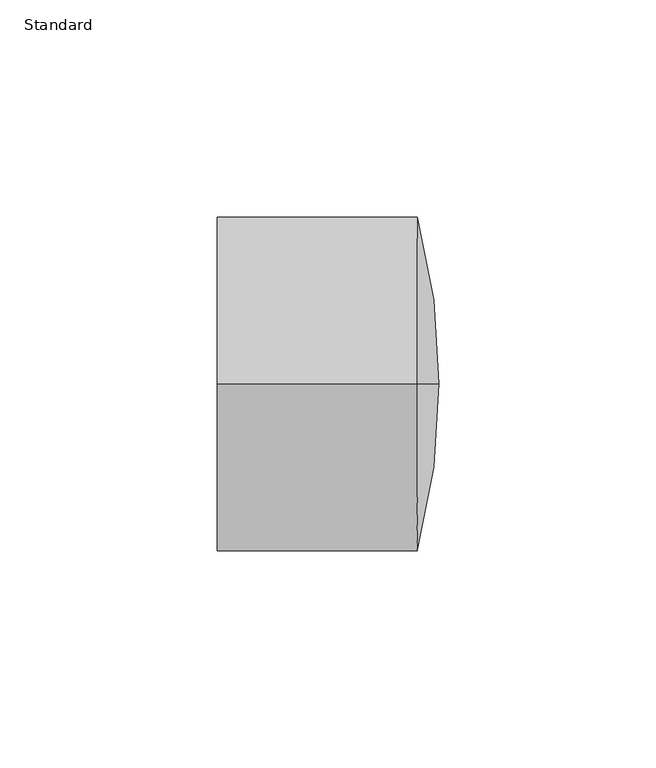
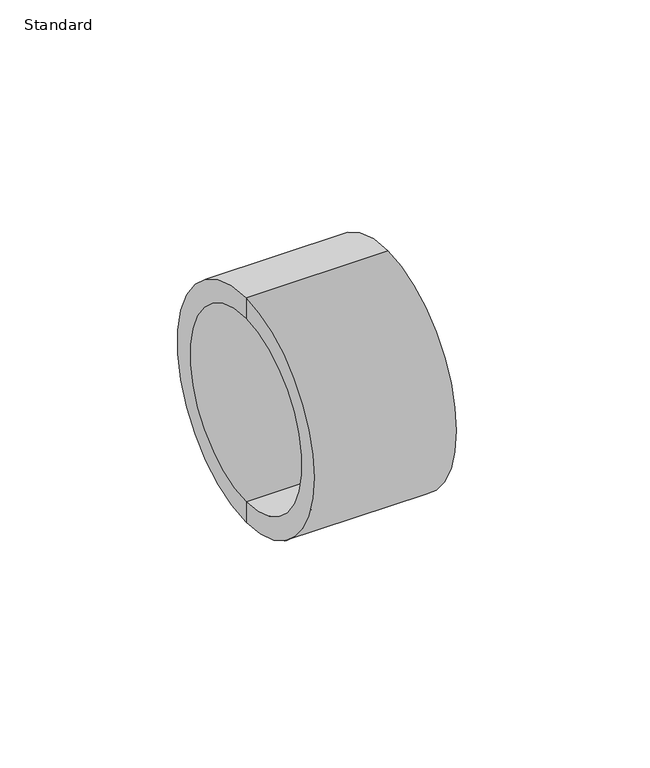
"""IFC4 building model written with IfcOpenShell, lengths in millimetres: pipe fitting geometry, Durapipe_PipeFitting_PVC_Cap : Standard."""

from ifc_helpers import new_model, si_unit, point, frame, origin, place, context, project, spatial, polyline, circle_curve, ellipse_curve, trimmed, source, transform, mapped, element, save
from ifc_brep_helpers import plane_surface, cylinder_surface, revolved_surface, advanced_brep


def standard_309a048a(model_context):
    return source(origin(), model_context, "Body", "AdvancedBrep", [
        advanced_brep(
        [(0.0, 0.0, 0.0), (0.0, 0.0, 31.5), (0.0, 0.0, -31.5), (8.0, 0.0, -38.5), (8.0, 0.0, 38.5), (13.0, 0.0, 0.0), (-38.0, 0.0, -38.5), (-38.0, 0.0, 38.5), (-38.0, 0.0, -31.5), (-38.0, 0.0, 31.5)],
        [
            (0, 1),
            (1, 2, circle_curve(frame((0.0, 0.0, 0.0), z_axis=(-1.0, 0.0, 0.0), x_axis=(0.0, 0.0, 1.0)), 31.5)),
            (2, 0),
            (2, 1, circle_curve(frame((0.0, 0.0, 0.0), z_axis=(-1.0, 0.0, 0.0), x_axis=(0.0, 0.0, 1.0)), 31.5)),
            (3, 4, circle_curve(frame((8.0, 0.0, 0.0), z_axis=(1.0, 0.0, 0.0), x_axis=(0.0, 0.0, 1.0)), 38.5)),
            (4, 5, circle_curve(frame((-129.0669133, 0.0, 1.1244268), z_axis=(0.0, 1.0, 0.0), x_axis=(1.0, 0.0, 0.0)), 142.071363)),
            (5, 3, circle_curve(frame((-129.0669133, 0.0, -1.1244268), z_axis=(0.0, 1.0, 0.0), x_axis=(1.0, 0.0, 0.0)), 142.071363)),
            (4, 3, circle_curve(frame((8.0, 0.0, 0.0), z_axis=(1.0, 0.0, 0.0), x_axis=(0.0, 0.0, 1.0)), 38.5)),
            (6, 7, circle_curve(frame((-38.0, 0.0, 0.0), z_axis=(1.0, 0.0, 0.0), x_axis=(0.0, 0.0, 1.0)), 38.5)),
            (7, 4),
            (3, 6),
            (7, 6, circle_curve(frame((-38.0, 0.0, 0.0), z_axis=(1.0, 0.0, 0.0), x_axis=(0.0, 0.0, 1.0)), 38.5)),
            (8, 9, circle_curve(frame((-38.0, 0.0, 0.0), z_axis=(1.0, 0.0, 0.0), x_axis=(0.0, 0.0, 1.0)), 31.5)),
            (9, 7),
            (6, 8),
            (9, 8, circle_curve(frame((-38.0, 0.0, 0.0), z_axis=(1.0, 0.0, 0.0), x_axis=(0.0, 0.0, 1.0)), 31.5)),
            (1, 9),
            (8, 2),
        ],
        [
            plane_surface(frame((0.0, 0.0, 0.0), z_axis=(-1.0, 0.0, 0.0), x_axis=(0.0, 0.0, 1.0))),
            revolved_surface(trimmed(ellipse_curve(frame((-129.0669133, 0.0, 1.1244268), z_axis=(0.0, -1.0, 0.0), x_axis=(1.0, 0.0, 0.0)), 142.071363, 142.071363), [point((13.0, 0.0, 0.0))], [point((8.0, 0.0, 38.5))], True, "CARTESIAN"), (-1537.1299635, 0.0, 0.0), (-1.0, 0.0, 0.0)),
            cylinder_surface(frame((-1537.1299635, 0.0, 0.0), z_axis=(-1.0, 0.0, 0.0), x_axis=(0.0, 0.0, 1.0)), 38.5),
            plane_surface(frame((-38.0, 0.0, 0.0), z_axis=(-1.0, 0.0, 0.0), x_axis=(0.0, 0.0, 1.0))),
            revolved_surface(polyline([(-38.0, 0.0, 31.5), (0.0, 0.0, 31.5)]), (-1537.1299635, 0.0, 0.0), (-1.0, 0.0, 0.0)),
        ],
        [
            (0, [[1, 2, 3]]),
            (0, [[-3, 4, -1]]),
            (1, [[5, 6, 7]]),
            (1, [[8, -7, -6]]),
            (2, [[9, 10, -5, 11]]),
            (2, [[12, -11, -8, -10]]),
            (3, [[13, 14, -9, 15]]),
            (3, [[16, -15, -12, -14]]),
            (4, [[-2, 17, -13, 18]]),
            (4, [[-4, -18, -16, -17]]),
        ],
    ),
    ])


if __name__ == "__main__":
    model = new_model("IFC4")
    model_context = context("Model", 3, world=origin())
    ifc_project = project(units=[si_unit("LENGTHUNIT", "METRE", prefix="MILLI")], contexts=[model_context])
    site = spatial("IfcSite", under=ifc_project)
    building = spatial("IfcBuilding", under=site)
    placement = place(None, origin())
    standard_shape = standard_309a048a(model_context)
    element("IfcPipeFitting", 1, ObjectType="Durapipe_PipeFitting_PVC_Cap : Standard", at=placement, inside=building, context=model_context, shape_type="MappedRepresentation", body=[
        mapped(standard_shape, transform((0.0, 0.0, 0.0), x_axis=(1.0, 0.0, 0.0), y_axis=(0.0, 1.0, 0.0), z_axis=(0.0, 0.0, 1.0))),
    ])
    save(model, "model.ifc")
